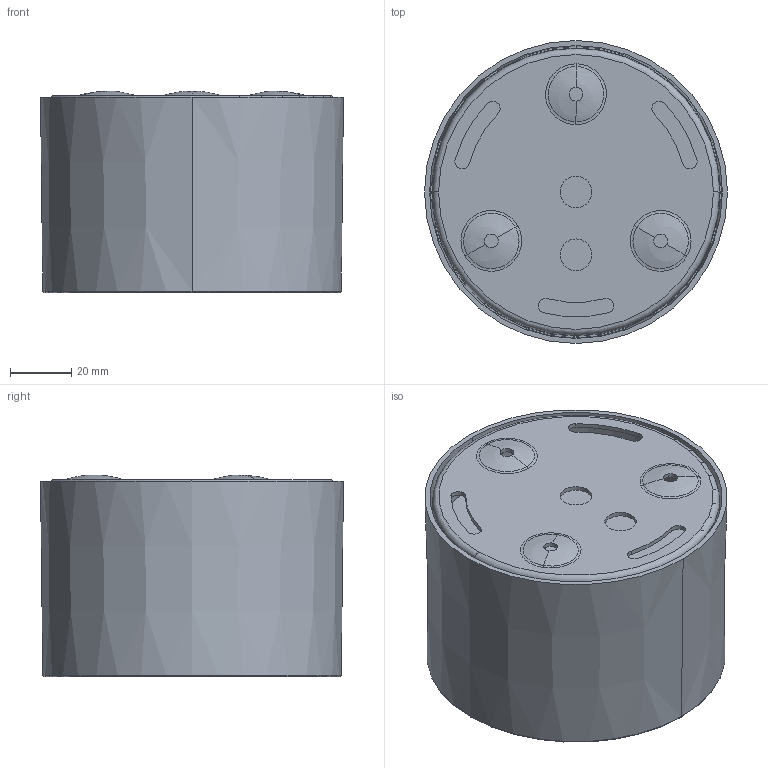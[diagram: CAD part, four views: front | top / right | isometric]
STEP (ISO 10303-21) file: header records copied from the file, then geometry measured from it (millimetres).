
FILE_DESCRIPTION((''),'2;1');
FILE_NAME('KL-D100-15W_ASM','2025-11-20T11:29:25',('Administrator'),(''),'CREO PARAMETRIC BY PTC INC, 2021164','CREO PARAMETRIC BY PTC INC, 2021164','');
FILE_SCHEMA(('CONFIG_CONTROL_DESIGN','SHAPE_APPEARANCE_LAYERS_GROUPS'));
Length unit declared in the file: millimetre
Products named in the file (4): PRT0001_7; PRT0002_5; ASM0001_ASM_2_ASM; KL-D100-15W_ASM
Assembly tree (3 placements, depth 3):
  KL-D100-15W_ASM
    ASM0001_ASM_2_ASM
      PRT0001_7
      PRT0002_5
Bounding box: 99.3 x 99.3 x 66.02 mm (x, y, z)
Volume: 321474.8 mm3; surface area: 63238.9 mm2
Topology: 2 solids, 2 shells, 91 faces, 276 edges, 184 vertices
Faces by surface type: cylinder 32, torus 28, sphere 12, plane 11, cone 8
Entity records: 4818 total; most frequent: DIRECTION 676, CARTESIAN_POINT 577, ORIENTED_EDGE 528, PRESENTATION_STYLE_ASSIGNMENT 357, STYLED_ITEM 356, AXIS2_PLACEMENT_3D 318, CURVE_STYLE 264, EDGE_CURVE 264
